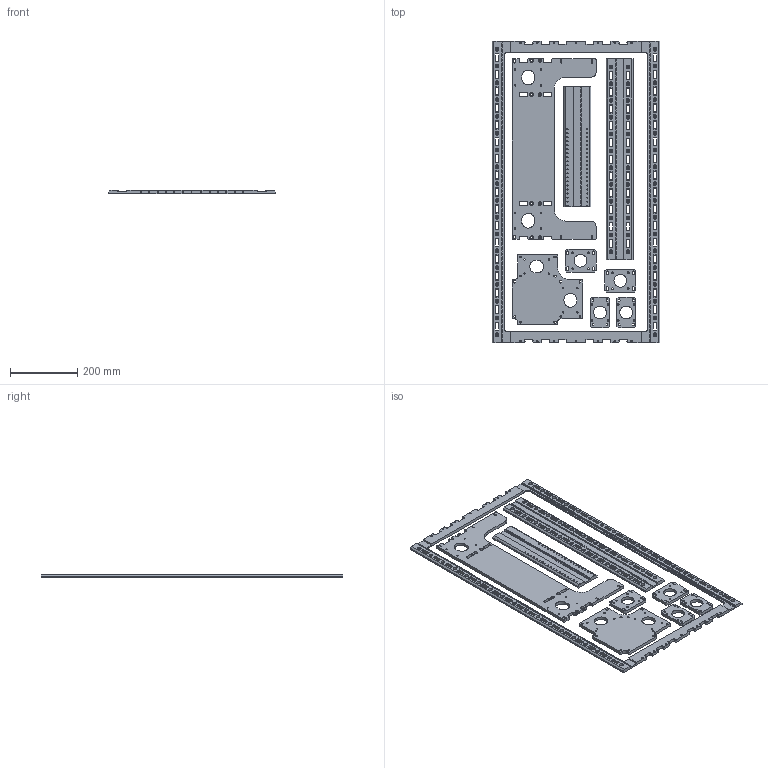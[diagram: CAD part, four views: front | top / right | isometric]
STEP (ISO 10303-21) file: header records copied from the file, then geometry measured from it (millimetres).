
FILE_DESCRIPTION(/* description */ (''),/* implementation_level */ '2;1');
FILE_NAME(/* name */ 'HDPE-M~1',/* time_stamp */ '2017-11-06T11:22:37-05:00',/* author */ (''),/* organization */ (''),/* preprocessor_version */ 'ST-DEVELOPER v15',/* originating_system */ '',/* authorisation */ '');
FILE_SCHEMA (('AUTOMOTIVE_DESIGN'));
Products named in the file (1): Document
Bounding box: 499.3 x 898 x 9.5 mm (x, y, z)
Volume: 2300197.9 mm3; surface area: 803780.6 mm2
Topology: 9 solids, 9 shells, 2066 faces, 5959 edges, 3974 vertices
Faces by surface type: bspline 1641, plane 425
Entity records: 134497 total; most frequent: CARTESIAN_POINT 102577, ORIENTED_EDGE 11918, EDGE_CURVE 5959, VERTEX_POINT 3974, EDGE_LOOP 2643, ADVANCED_FACE 2066, FACE_OUTER_BOUND 2066, B_SPLINE_CURVE_WITH_KNOTS 1332
